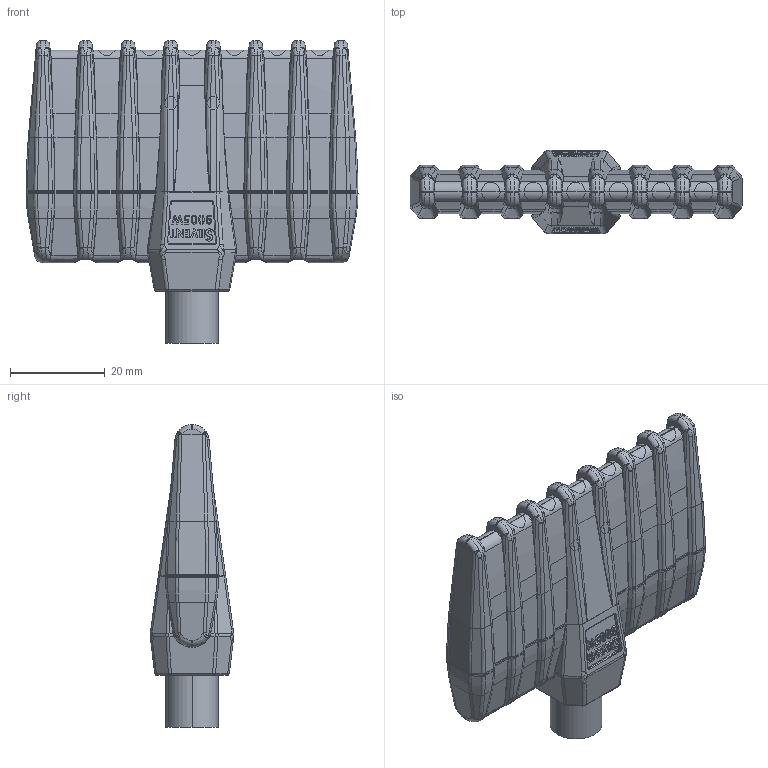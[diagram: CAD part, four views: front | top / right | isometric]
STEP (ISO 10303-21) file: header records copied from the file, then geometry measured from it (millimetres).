
FILE_DESCRIPTION (( 'STEP AP214' ), '1' );
FILE_NAME ('Silvent 9005W.STEP', '2011-02-10T08:37:05', ( ' ' ), ( '' ), 'SwSTEP 2.0', 'SolidWorks 2010', '' );
FILE_SCHEMA (( 'AUTOMOTIVE_DESIGN' ));
Length unit declared in the file: millimetre
Products named in the file (1): Silvent 9005W
Bounding box: 70.21 x 17.73 x 63.99 mm (x, y, z)
Surface area: 9402.8 mm2 (no closed solid volume)
Topology: 0 solids, 6 shells, 1885 faces, 4878 edges, 2904 vertices
Faces by surface type: bspline 742, plane 543, cylinder 540, sphere 32, torus 20, cone 8
Entity records: 105335 total; most frequent: CARTESIAN_POINT 46526, ORIENTED_EDGE 9001, DIRECTION 5842, EDGE_CURVE 4853, VERTEX_POINT 2904, AXIS2_PLACEMENT_3D 2013, EDGE_LOOP 1922, UNCERTAINTY_MEASURE_WITH_UNIT 1887
